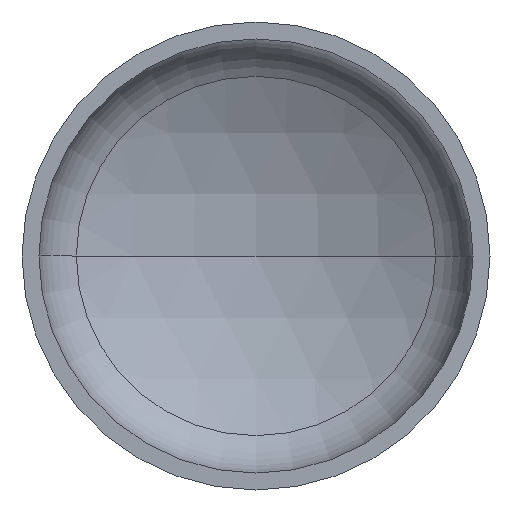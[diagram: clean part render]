
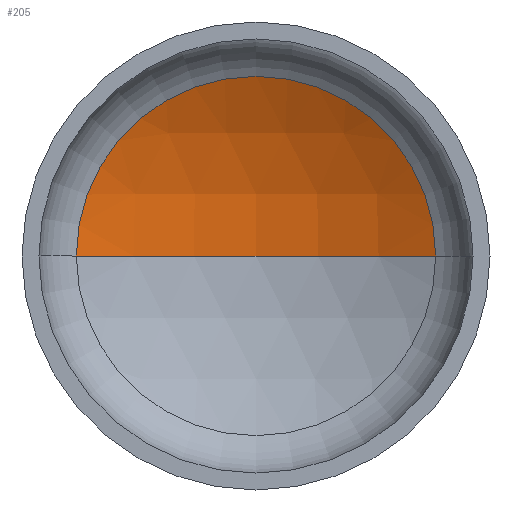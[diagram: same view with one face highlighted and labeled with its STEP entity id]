
A CAD part, front view. The second image highlights one B-rep face of the part: STEP entity #205.
In plain terms, the highlighted spherical face has radius 1040 mm.
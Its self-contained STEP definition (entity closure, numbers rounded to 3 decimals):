
#4 = AXIS2_PLACEMENT_3D ( 'NONE', #47, #113, #114 ) ;
#12 = AXIS2_PLACEMENT_3D ( 'NONE', #105, #100, #103 ) ;
#13 = AXIS2_PLACEMENT_3D ( 'NONE', #386, #392, #201 ) ;
#21 = AXIS2_PLACEMENT_3D ( 'NONE', #138, #402, #135 ) ;
#31 = CIRCLE ( 'NONE', #4, 498.952 ) ;
#47 = CARTESIAN_POINT ( 'NONE',  ( 0., 325.48, 0. ) ) ;
#70 = FACE_OUTER_BOUND ( 'NONE', #130, .T. ) ;
#85 = ORIENTED_EDGE ( 'NONE', *, *, #311, .T. ) ;
#100 = DIRECTION ( 'NONE',  ( 0., 0., 1. ) ) ;
#103 = DIRECTION ( 'NONE',  ( 1., 0., 0. ) ) ;
#105 = CARTESIAN_POINT ( 'NONE',  ( 0., -587.015, 0. ) ) ;
#112 = CARTESIAN_POINT ( 'NONE',  ( -498.952, 325.48, 0. ) ) ;
#113 = DIRECTION ( 'NONE',  ( 0., -1., 0. ) ) ;
#114 = DIRECTION ( 'NONE',  ( 1., 0., 0. ) ) ;
#130 = EDGE_LOOP ( 'NONE', ( #191, #85, #215 ) ) ;
#132 = CARTESIAN_POINT ( 'NONE',  ( 0., 452.985, 0. ) ) ;
#133 = CIRCLE ( 'NONE', #13, 1040. ) ;
#135 = DIRECTION ( 'NONE',  ( -1., 0., 0. ) ) ;
#138 = CARTESIAN_POINT ( 'NONE',  ( 0., -587.015, 0. ) ) ;
#158 = SPHERICAL_SURFACE ( 'NONE', #21, 1040. ) ;
#191 = ORIENTED_EDGE ( 'NONE', *, *, #313, .F. ) ;
#201 = DIRECTION ( 'NONE',  ( -1., 0., 0. ) ) ;
#205 = ADVANCED_FACE ( 'NONE', ( #70 ), #158, .F. ) ;
#208 = CIRCLE ( 'NONE', #12, 1040. ) ;
#215 = ORIENTED_EDGE ( 'NONE', *, *, #331, .T. ) ;
#280 = VERTEX_POINT ( 'NONE', #132 ) ;
#301 = VERTEX_POINT ( 'NONE', #112 ) ;
#311 = EDGE_CURVE ( 'NONE', #280, #343, #133, .T. ) ;
#313 = EDGE_CURVE ( 'NONE', #280, #301, #208, .T. ) ;
#331 = EDGE_CURVE ( 'NONE', #343, #301, #31, .T. ) ;
#343 = VERTEX_POINT ( 'NONE', #370 ) ;
#370 = CARTESIAN_POINT ( 'NONE',  ( 498.952, 325.48, 0. ) ) ;
#386 = CARTESIAN_POINT ( 'NONE',  ( 0., -587.015, 0. ) ) ;
#392 = DIRECTION ( 'NONE',  ( 0., 0., -1. ) ) ;
#402 = DIRECTION ( 'NONE',  ( 0., 0., -1. ) ) ;
